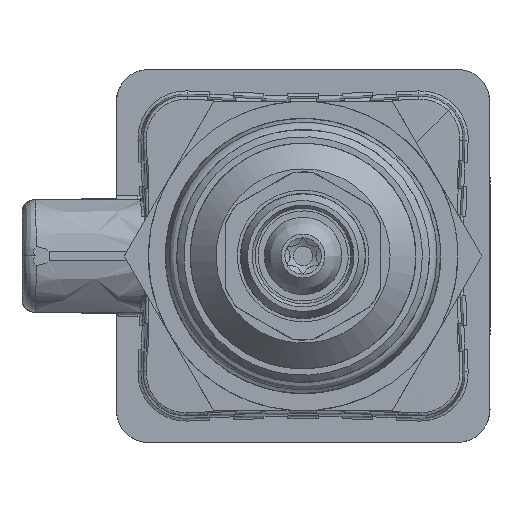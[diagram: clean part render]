
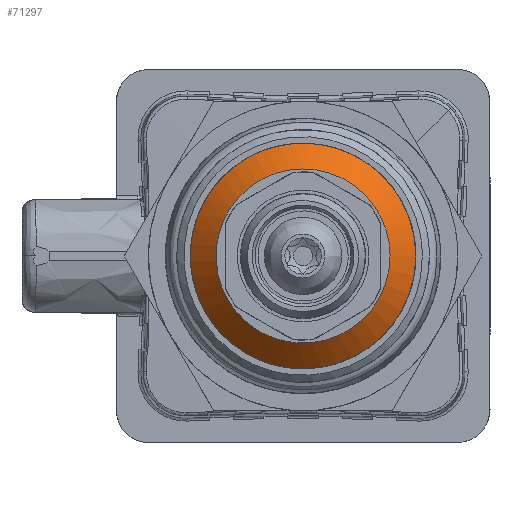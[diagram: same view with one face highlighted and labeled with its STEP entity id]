
A CAD part, front view. The second image highlights one B-rep face of the part: STEP entity #71297.
In plain terms, the highlighted free-form (B-spline) face has degree [2, 1] with [7, 2] control points.
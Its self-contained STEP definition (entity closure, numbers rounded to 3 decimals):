
#71219=CARTESIAN_POINT('V2378',(8.75,
   -27.3,0.0));
#71220=VERTEX_POINT('V2378',#71219);
#71226=CARTESIAN_POINT('E3693',(8.75,
   -27.3,0.0));
#71227=CARTESIAN_POINT('E3693',(8.75,
   -27.3,-15.155));
#71228=CARTESIAN_POINT('E3693',(-4.375,
   -27.3,-7.578));
#71229=CARTESIAN_POINT('E3693',(-17.5,
   -27.3,0.));
#71230=CARTESIAN_POINT('E3693',(-4.375,
   -27.3,7.578));
#71231=CARTESIAN_POINT('E3693',(8.75,
   -27.3,15.155));
#71232=CARTESIAN_POINT('E3693',(8.75,
   -27.3,0.0));
#71240=(BOUNDED_CURVE()B_SPLINE_CURVE(2,(#71226,#71227,#71228,
   #71229,#71230,#71231,#71232),.CIRCULAR_ARC.,.T.,.U.)
   B_SPLINE_CURVE_WITH_KNOTS((3,2,2,3),(0.0,60.622,
   121.244,181.865),.UNSPECIFIED.)CURVE()
   GEOMETRIC_REPRESENTATION_ITEM()RATIONAL_B_SPLINE_CURVE((1.0,
   0.5,1.0,0.5,1.0,0.5,1.0)
   )REPRESENTATION_ITEM('E3693'));
#71241=EDGE_CURVE('E3693',#71220,#71220,#71240,.T.);
#71247=CARTESIAN_POINT('F1407',(6.75,
   -29.3,0.0));
#71248=CARTESIAN_POINT('F1407',(6.75,
   -29.3,-11.691));
#71249=CARTESIAN_POINT('F1407',(-3.375,
   -29.3,-5.846));
#71250=CARTESIAN_POINT('F1407',(-13.5,
   -29.3,0.));
#71251=CARTESIAN_POINT('F1407',(-3.375,
   -29.3,5.846));
#71252=CARTESIAN_POINT('F1407',(6.75,
   -29.3,11.691));
#71253=CARTESIAN_POINT('F1407',(6.75,
   -29.3,0.0));
#71254=CARTESIAN_POINT('F1407',(8.75,
   -27.3,0.0));
#71255=CARTESIAN_POINT('F1407',(8.75,
   -27.3,-15.155));
#71256=CARTESIAN_POINT('F1407',(-4.375,
   -27.3,-7.578));
#71257=CARTESIAN_POINT('F1407',(-17.5,
   -27.3,0.));
#71258=CARTESIAN_POINT('F1407',(-4.375,
   -27.3,7.578));
#71259=CARTESIAN_POINT('F1407',(8.75,
   -27.3,15.155));
#71260=CARTESIAN_POINT('F1407',(8.75,
   -27.3,0.0));
#71268=(BOUNDED_SURFACE()B_SPLINE_SURFACE(2,1,((#71247,#71254),(
   #71248,#71255),(#71249,#71256),(#71250,#71257),(#71251,
   #71258),(#71252,#71259),(#71253,#71260)),.CONICAL_SURF.,.T.,
   .F.,.U.)B_SPLINE_SURFACE_WITH_KNOTS((3,2,2,3),(2,2),(0.0,
   9.492,18.984,28.475),(0.0,
   1.0),.UNSPECIFIED.)GEOMETRIC_REPRESENTATION_ITEM()
   RATIONAL_B_SPLINE_SURFACE(((1.0,1.0),(0.5,
   0.5),(1.0,1.0),(0.5,
   0.5),(1.0,1.0),(0.5,
   0.5),(1.0,1.0)))REPRESENTATION_ITEM('F1407')
   SURFACE());
#71269=CARTESIAN_POINT('V2379',(6.75,
   -29.3,0.0));
#71270=VERTEX_POINT('V2379',#71269);
#71271=CARTESIAN_POINT('E3694',(8.75,
   -27.3,0.0));
#71272=CARTESIAN_POINT('E3694',(6.75,
   -29.3,0.0));
#71273=QUASI_UNIFORM_CURVE('E3694',1,(#71271,#71272),.POLYLINE_FORM.,
   .F.,.U.);
#71274=EDGE_CURVE('E3694',#71220,#71270,#71273,.T.);
#71275=ORIENTED_EDGE('E3694',*,*,#71274,.T.);
#71276=CARTESIAN_POINT('E3695',(6.75,
   -29.3,0.0));
#71277=CARTESIAN_POINT('E3695',(6.75,
   -29.3,-11.691));
#71278=CARTESIAN_POINT('E3695',(-3.375,
   -29.3,-5.846));
#71279=CARTESIAN_POINT('E3695',(-13.5,
   -29.3,0.));
#71280=CARTESIAN_POINT('E3695',(-3.375,
   -29.3,5.846));
#71281=CARTESIAN_POINT('E3695',(6.75,
   -29.3,11.691));
#71282=CARTESIAN_POINT('E3695',(6.75,
   -29.3,0.0));
#71290=(BOUNDED_CURVE()B_SPLINE_CURVE(2,(#71276,#71277,#71278,
   #71279,#71280,#71281,#71282),.CIRCULAR_ARC.,.T.,.U.)
   B_SPLINE_CURVE_WITH_KNOTS((3,2,2,3),(0.0,9.492,
   18.984,28.475),.UNSPECIFIED.)CURVE()
   GEOMETRIC_REPRESENTATION_ITEM()RATIONAL_B_SPLINE_CURVE((1.0,
   0.5,1.0,0.5,1.0,0.5,1.0)
   )REPRESENTATION_ITEM('E3695'));
#71291=EDGE_CURVE('E3695',#71270,#71270,#71290,.T.);
#71292=ORIENTED_EDGE('E3695',*,*,#71291,.T.);
#71293=ORIENTED_EDGE('E3694',*,*,#71274,.F.);
#71294=ORIENTED_EDGE('E3693',*,*,#71241,.F.);
#71295=EDGE_LOOP('F1407',(#71275,#71292,#71293,#71294));
#71296=FACE_OUTER_BOUND('F1407',#71295,.T.);
#71297=ADVANCED_FACE('F1407',(#71296),#71268,.T.);
